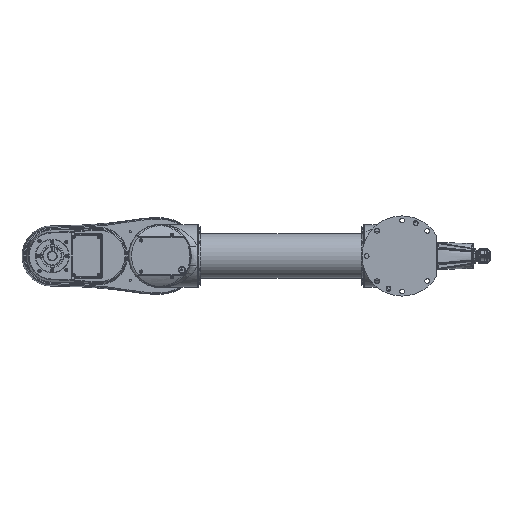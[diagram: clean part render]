
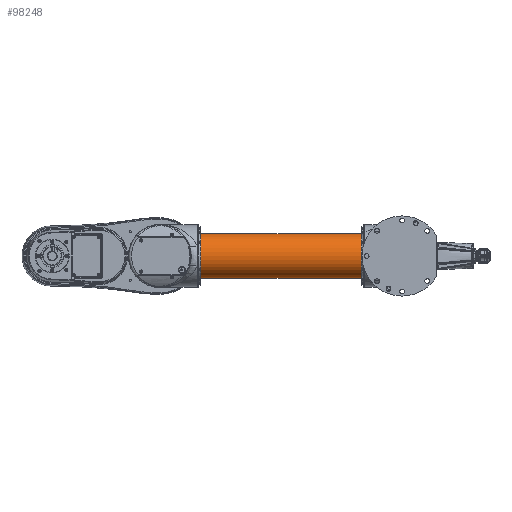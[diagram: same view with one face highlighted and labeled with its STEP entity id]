
A CAD part, front view. The second image highlights one B-rep face of the part: STEP entity #98248.
In plain terms, the highlighted cylindrical face has radius 41.5 mm (diameter 83 mm), a partial arc.
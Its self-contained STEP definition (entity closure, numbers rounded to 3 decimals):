
#80931=DIRECTION('',(0.,-1.,0.));
#80932=VECTOR('',#80931,298.2);
#80933=CARTESIAN_POINT('',(41.5,311.6,0.));
#80934=LINE('',#80933,#80932);
#80935=DIRECTION('',(0.,-1.,0.));
#80936=VECTOR('',#80935,298.2);
#80937=CARTESIAN_POINT('',(-41.5,311.6,0.));
#80938=LINE('',#80937,#80936);
#80939=CARTESIAN_POINT('',(0.,13.4,0.));
#80940=DIRECTION('',(0.,1.,0.));
#80941=DIRECTION('',(1.,0.,0.));
#80942=AXIS2_PLACEMENT_3D('',#80939,#80940,#80941);
#80944=CARTESIAN_POINT('',(0.,13.4,0.));
#80945=DIRECTION('',(0.,1.,0.));
#80946=DIRECTION('',(1.,0.,-0.004));
#80947=AXIS2_PLACEMENT_3D('',#80944,#80945,#80946);
#80959=CARTESIAN_POINT('',(0.,311.6,0.));
#80960=DIRECTION('',(0.,-1.,0.));
#80961=DIRECTION('',(-1.,0.,0.));
#80962=AXIS2_PLACEMENT_3D('',#80959,#80960,#80961);
#80964=CARTESIAN_POINT('',(0.,311.6,0.));
#80965=DIRECTION('',(0.,-1.,0.));
#80966=DIRECTION('',(1.,0.,-0.004));
#80967=AXIS2_PLACEMENT_3D('',#80964,#80965,#80966);
#92407=CARTESIAN_POINT('',(41.5,13.4,0.));
#92409=VERTEX_POINT('',#92407);
#92410=CARTESIAN_POINT('',(-41.5,13.4,0.));
#92411=VERTEX_POINT('',#92410);
#92412=CARTESIAN_POINT('',(-41.5,311.6,0.));
#92413=VERTEX_POINT('',#92412);
#92414=CARTESIAN_POINT('',(41.5,311.6,0.));
#92416=VERTEX_POINT('',#92414);
#92418=CARTESIAN_POINT('',(41.5,13.4,-0.161));
#92419=VERTEX_POINT('',#92418);
#92420=CARTESIAN_POINT('',(41.5,311.6,-0.154));
#92421=VERTEX_POINT('',#92420);
#98231=CARTESIAN_POINT('',(0.,341.25,0.));
#98232=DIRECTION('',(0.,-1.,0.));
#98233=DIRECTION('',(-1.,0.,0.));
#98234=AXIS2_PLACEMENT_3D('',#98231,#98232,#98233);
#98235=CYLINDRICAL_SURFACE('',#98234,41.5);
#98237=ORIENTED_EDGE('',*,*,#98236,.F.);
#98239=ORIENTED_EDGE('',*,*,#98238,.F.);
#98240=ORIENTED_EDGE('',*,*,#98226,.F.);
#98242=ORIENTED_EDGE('',*,*,#98241,.F.);
#98244=ORIENTED_EDGE('',*,*,#98243,.F.);
#98245=ORIENTED_EDGE('',*,*,#98220,.T.);
#98246=EDGE_LOOP('',(#98237,#98239,#98240,#98242,#98244,#98245));
#98247=FACE_OUTER_BOUND('',#98246,.F.);
#98248=ADVANCED_FACE('',(#98247),#98235,.T.);
#80943=CIRCLE('',#80942,41.5);
#80948=CIRCLE('',#80947,41.5);
#80963=CIRCLE('',#80962,41.5);
#80968=CIRCLE('',#80967,41.5);
#98220=EDGE_CURVE('',#92413,#92411,#80938,.T.);
#98226=EDGE_CURVE('',#92416,#92409,#80934,.T.);
#98236=EDGE_CURVE('',#92419,#92411,#80948,.T.);
#98238=EDGE_CURVE('',#92409,#92419,#80943,.T.);
#98241=EDGE_CURVE('',#92421,#92416,#80968,.T.);
#98243=EDGE_CURVE('',#92413,#92421,#80963,.T.);
